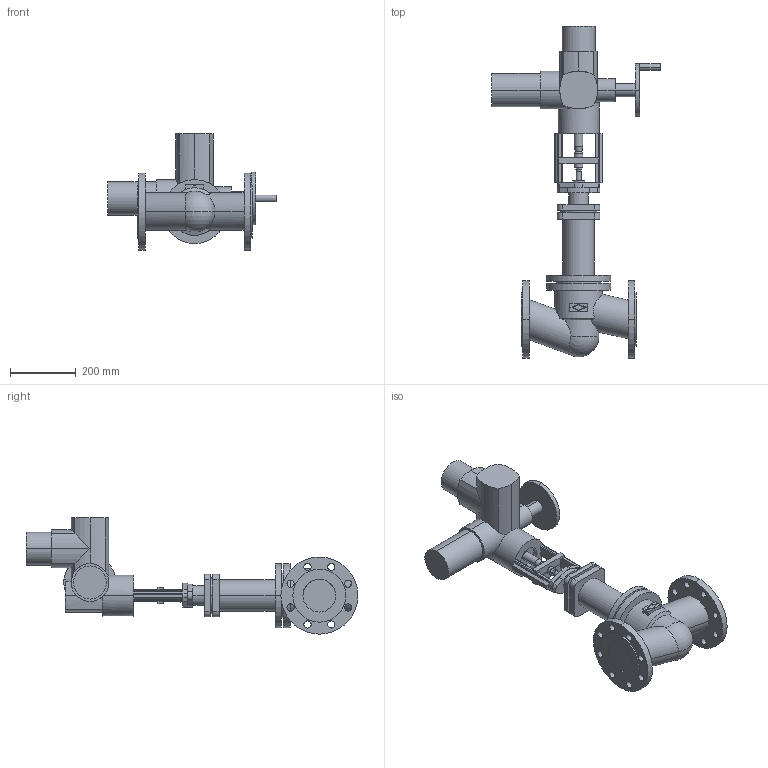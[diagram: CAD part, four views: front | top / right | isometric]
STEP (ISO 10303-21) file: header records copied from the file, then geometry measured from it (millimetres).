
FILE_DESCRIPTION(('OneSpaceDesigner STEP Export'),'2;1');
FILE_NAME('c000003148.stp','2007-01-19T11:44:24',(''),(''),'OneSpace Designer STEP processor for AP214 (Solid Model)','OneSpace Designer 14.00B 27-May-2006 (C) CoCreate Software GmbH','');
FILE_SCHEMA(('AUTOMOTIVE_DESIGN { 1 0 10303 214 1 1 1 1 }'));
Length unit declared in the file: millimetre
Products named in the file (2): 1; 2
Bounding box: 514 x 1011.7 x 354.5 mm (x, y, z)
Volume: 18350557.5 mm3; surface area: 1009360.3 mm2
Topology: 2 solids, 2 shells, 305 faces, 786 edges, 505 vertices
Faces by surface type: cylinder 162, plane 135, cone 6, sphere 2
Entity records: 9855 total; most frequent: CARTESIAN_POINT 2045, ORIENTED_EDGE 1568, DIRECTION 1313, SURFACE_CURVE 784, EDGE_CURVE 784, VERTEX_POINT 505, AXIS2_PLACEMENT_3D 446, VECTOR 421
